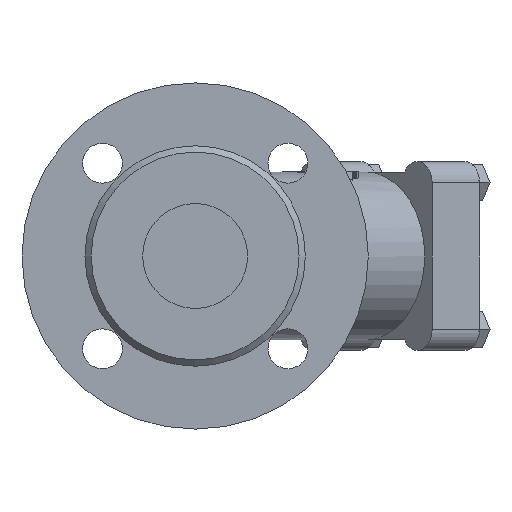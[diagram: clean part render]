
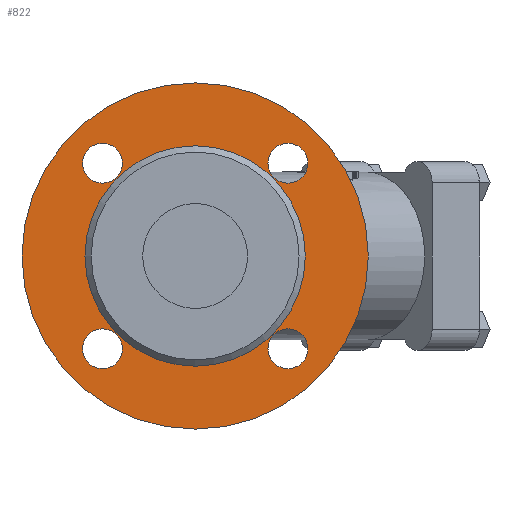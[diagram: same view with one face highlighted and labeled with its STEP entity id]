
A CAD part, left-side view. The second image highlights one B-rep face of the part: STEP entity #822.
In plain terms, the highlighted planar face has unit normal (-1, 0, 0).
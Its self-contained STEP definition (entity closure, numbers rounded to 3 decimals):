
#822=ADVANCED_FACE('',(#8981,#8983,#8985,#8987,#8989,#8991),#8993,.T.);
#8981=FACE_BOUND('',#8982,.T.);
#8982=EDGE_LOOP('',(#16063,#16064));
#8983=FACE_BOUND('',#8984,.T.);
#8984=EDGE_LOOP('',(#16065));
#8985=FACE_BOUND('',#8986,.T.);
#8986=EDGE_LOOP('',(#16066));
#8987=FACE_BOUND('',#8988,.T.);
#8988=EDGE_LOOP('',(#16067));
#8989=FACE_BOUND('',#8990,.T.);
#8990=EDGE_LOOP('',(#16068));
#8991=FACE_BOUND('',#8992,.T.);
#8992=EDGE_LOOP('',(#16069,#16070));
#8993=PLANE('',#8994);
#8994=AXIS2_PLACEMENT_3D('',#8995,#8996,#8997);
#8995=CARTESIAN_POINT('',(7009.265,-4947.822,27.));
#8996=DIRECTION('',(-1.,0.,0.));
#8997=DIRECTION('',(0.,0.,1.));
#16063=ORIENTED_EDGE('',*,*,#21194,.F.);
#16064=ORIENTED_EDGE('',*,*,#21195,.F.);
#16065=ORIENTED_EDGE('',*,*,#21183,.T.);
#16066=ORIENTED_EDGE('',*,*,#21185,.T.);
#16067=ORIENTED_EDGE('',*,*,#21187,.T.);
#16068=ORIENTED_EDGE('',*,*,#21181,.T.);
#16069=ORIENTED_EDGE('',*,*,#21193,.T.);
#16070=ORIENTED_EDGE('',*,*,#21192,.T.);
#21181=EDGE_CURVE('',#24751,#24751,#24752,.T.);
#21183=EDGE_CURVE('',#24755,#24755,#24756,.T.);
#21185=EDGE_CURVE('',#24759,#24759,#24760,.T.);
#21187=EDGE_CURVE('',#24763,#24763,#24764,.T.);
#21192=EDGE_CURVE('',#24773,#24774,#24775,.T.);
#21193=EDGE_CURVE('',#24774,#24773,#24776,.T.);
#21194=EDGE_CURVE('',#24777,#24778,#24779,.T.);
#21195=EDGE_CURVE('',#24778,#24777,#24780,.T.);
#24751=VERTEX_POINT('',#33090);
#24752=CIRCLE('',#33091,9.5);
#24755=VERTEX_POINT('',#33100);
#24756=CIRCLE('',#33101,9.5);
#24759=VERTEX_POINT('',#33110);
#24760=CIRCLE('',#33111,9.5);
#24763=VERTEX_POINT('',#33120);
#24764=CIRCLE('',#33121,9.5);
#24773=VERTEX_POINT('',#33145);
#24774=VERTEX_POINT('',#33146);
#24775=CIRCLE('',#33147,52.5);
#24776=CIRCLE('',#33151,52.5);
#24777=VERTEX_POINT('',#33155);
#24778=VERTEX_POINT('',#33156);
#24779=CIRCLE('',#33157,82.5);
#24780=CIRCLE('',#33161,82.5);
#33090=CARTESIAN_POINT('',(7009.265,-5084.016,-17.194));
#33091=AXIS2_PLACEMENT_3D('',#33092,#33093,#33094);
#33092=CARTESIAN_POINT('',(7009.265,-5074.516,-17.194));
#33093=DIRECTION('',(1.,0.,0.));
#33094=DIRECTION('',(0.,-1.,0.));
#33100=CARTESIAN_POINT('',(7009.265,-4995.627,-17.194));
#33101=AXIS2_PLACEMENT_3D('',#33102,#33103,#33104);
#33102=CARTESIAN_POINT('',(7009.265,-4986.127,-17.194));
#33103=DIRECTION('',(1.,0.,0.));
#33104=DIRECTION('',(0.,-1.,0.));
#33110=CARTESIAN_POINT('',(7009.265,-4995.627,71.194));
#33111=AXIS2_PLACEMENT_3D('',#33112,#33113,#33114);
#33112=CARTESIAN_POINT('',(7009.265,-4986.127,71.194));
#33113=DIRECTION('',(1.,0.,0.));
#33114=DIRECTION('',(0.,-1.,0.));
#33120=CARTESIAN_POINT('',(7009.265,-5084.016,71.194));
#33121=AXIS2_PLACEMENT_3D('',#33122,#33123,#33124);
#33122=CARTESIAN_POINT('',(7009.265,-5074.516,71.194));
#33123=DIRECTION('',(1.,0.,0.));
#33124=DIRECTION('',(0.,-1.,0.));
#33145=CARTESIAN_POINT('',(7009.265,-5082.822,27.));
#33146=CARTESIAN_POINT('',(7009.265,-4977.822,27.));
#33147=AXIS2_PLACEMENT_3D('',#33148,#33149,#33150);
#33148=CARTESIAN_POINT('',(7009.265,-5030.322,27.));
#33149=DIRECTION('',(1.,0.,0.));
#33150=DIRECTION('',(0.,-1.,0.));
#33151=AXIS2_PLACEMENT_3D('',#33152,#33153,#33154);
#33152=CARTESIAN_POINT('',(7009.265,-5030.322,27.));
#33153=DIRECTION('',(1.,0.,0.));
#33154=DIRECTION('',(0.,1.,0.));
#33155=CARTESIAN_POINT('',(7009.265,-5112.822,27.));
#33156=CARTESIAN_POINT('',(7009.265,-4947.822,27.));
#33157=AXIS2_PLACEMENT_3D('',#33158,#33159,#33160);
#33158=CARTESIAN_POINT('',(7009.265,-5030.322,27.));
#33159=DIRECTION('',(1.,0.,0.));
#33160=DIRECTION('',(0.,-1.,0.));
#33161=AXIS2_PLACEMENT_3D('',#33162,#33163,#33164);
#33162=CARTESIAN_POINT('',(7009.265,-5030.322,27.));
#33163=DIRECTION('',(1.,0.,0.));
#33164=DIRECTION('',(0.,1.,0.));
